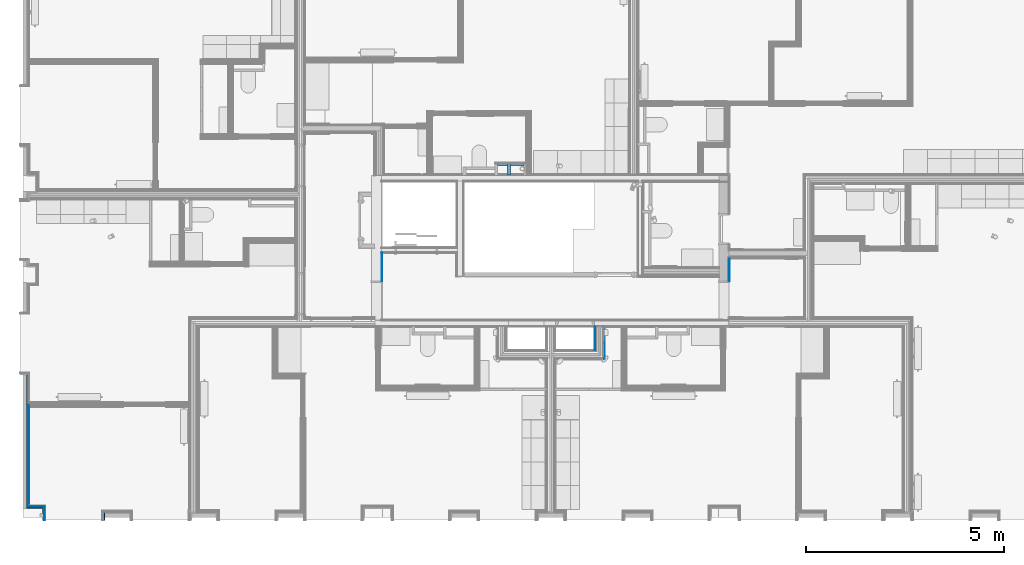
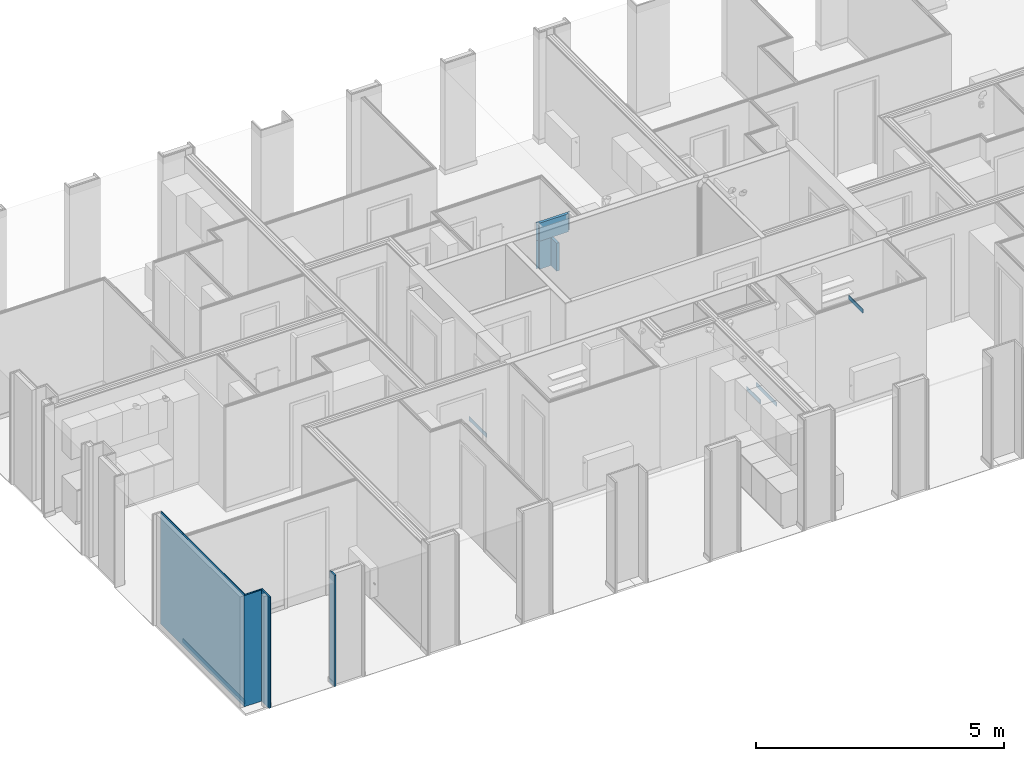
# One storey, part 8 of 82: 9 walls, 8 building element parts, 4 openings, 4 elements without a shape of their own.
"""IFC2X3 building model written with IfcOpenShell, lengths in metres."""

import ifcopenshell
import ifcopenshell.guid

model = None  # the IFC model being written
_history = None  # IfcOwnerHistory: only IFC2X3 demands one
_inside = {}  # id of a spatial element -> (the spatial element, [elements in it])
_under = {}  # id of a project, library or spatial element -> (it, [spatial elements below it])
_declared = {}  # id of a project -> (the project, [libraries it declares])
_typed = {}  # id of a type object -> (the type object, [elements of that type])
_made_of = {}  # id of a material, layer set ... -> (it, [elements and type objects made of it])


def new_model(schema):
    """Start an empty IFC model of exactly this schema.

    Asked for "IFC4X3", IfcOpenShell would pick the latest addendum, in which some entities
    have other attributes; the version numbers below select the first issue.
    IFC2X3 requires an IfcOwnerHistory on every rooted entity: one is made here for all.
    """
    global model, _history
    if schema == "IFC4X3":
        model = ifcopenshell.file(schema_version=(4, 3, 0, 0))
    else:
        model = ifcopenshell.file(schema=schema)
    _inside.clear()
    _under.clear()
    _declared.clear()
    _typed.clear()
    _made_of.clear()
    _history = None
    if model.schema == "IFC2X3":
        org = make("IfcOrganization", Name="unknown")
        user = make(
            "IfcPersonAndOrganization",
            ThePerson=make("IfcPerson", FamilyName="unknown"),
            TheOrganization=org,
        )
        app = make(
            "IfcApplication",
            ApplicationDeveloper=org,
            Version="unknown",
            ApplicationFullName="unknown",
            ApplicationIdentifier="unknown",
        )
        _history = make(
            "IfcOwnerHistory",
            OwningUser=user,
            OwningApplication=app,
            ChangeAction="ADDED",
            CreationDate=0,
        )
    return model


def make(cls, **values):
    """One entity of the class cls with the attributes given. An attribute that is None is left unset."""
    return model.create_entity(
        cls, **{name: value for name, value in values.items() if value is not None}
    )


def entity(cls, *values):
    """Any entity or typed value of the class cls, its attributes in the order of the schema. None: left unset."""
    e = model.create_entity(cls)
    for i, value in enumerate(values):
        if value is not None:
            e[i] = value
    return e


def rooted(cls, **values):
    """An entity with a GlobalId (a new one), such as an element, a storey or a relation."""
    return make(cls, GlobalId=ifcopenshell.guid.new(), OwnerHistory=_history, **values)


def si_unit(unit_type, name, prefix=None):
    """IfcSIUnit, for example si_unit("LENGTHUNIT", "METRE", prefix="MILLI")."""
    return make("IfcSIUnit", UnitType=unit_type, Prefix=prefix, Name=name)


def converted_unit(unit_type, name, factor, base, dimensions=None, offset=None):
    """IfcConversionBasedUnit, such as the inch: factor (a typed value) times the base unit."""
    return make(
        "IfcConversionBasedUnit"
        if offset is None
        else "IfcConversionBasedUnitWithOffset",
        ConversionOffset=offset,
        Dimensions=None
        if dimensions is None
        else entity("IfcDimensionalExponents", *dimensions),
        UnitType=unit_type,
        Name=name,
        ConversionFactor=make(
            "IfcMeasureWithUnit", ValueComponent=factor, UnitComponent=base
        ),
    )


def derived_unit(unit_type, elements):
    """IfcDerivedUnit: a product of units, each with its exponent."""
    return make(
        "IfcDerivedUnit",
        Elements=[
            make("IfcDerivedUnitElement", Unit=unit, Exponent=power)
            for unit, power in elements
        ],
        UnitType=unit_type,
    )


def money_unit(currency):
    """IfcMonetaryUnit."""
    return make("IfcMonetaryUnit", Currency=currency)


def assignment(units):
    """IfcUnitAssignment: the units of a project."""
    return None if units is None else make("IfcUnitAssignment", Units=units)


def point(xyz):
    """IfcCartesianPoint."""
    return None if xyz is None else make("IfcCartesianPoint", Coordinates=xyz)


def direction(xyz):
    """IfcDirection."""
    return None if xyz is None else make("IfcDirection", DirectionRatios=xyz)


def frame(location, z_axis=None, x_axis=None):
    """IfcAxis2Placement3D, a coordinate frame: its origin and axes. An axis left out is left unset."""
    return make(
        "IfcAxis2Placement3D",
        Location=point(location),
        Axis=direction(z_axis),
        RefDirection=direction(x_axis),
    )


def frame_2d(location, x_axis=None):
    """IfcAxis2Placement2D, a coordinate frame in the plane: its origin and x axis."""
    return make(
        "IfcAxis2Placement2D", Location=point(location), RefDirection=direction(x_axis)
    )


def origin_with_axes():
    """The frame at (0, 0, 0) with the z axis (0, 0, 1) and the x axis (1, 0, 0) written out."""
    return frame((0.0, 0.0, 0.0), z_axis=(0.0, 0.0, 1.0), x_axis=(1.0, 0.0, 0.0))


def place(relative_to, where):
    """IfcLocalPlacement: puts the frame where relative to a parent placement (None: the world)."""
    return make(
        "IfcLocalPlacement", PlacementRelTo=relative_to, RelativePlacement=where
    )


def context(
    kind, dimensions, precision=None, world=None, true_north=None, identifier=None
):
    """IfcGeometricRepresentationContext, for example the 3D "Model" context."""
    return make(
        "IfcGeometricRepresentationContext",
        ContextIdentifier=identifier,
        ContextType=kind,
        CoordinateSpaceDimension=dimensions,
        Precision=precision,
        WorldCoordinateSystem=world,
        TrueNorth=true_north,
    )


def subcontext(parent, identifier, kind, view, scale=None):
    """IfcGeometricRepresentationSubContext, for example "Body" below "Model"."""
    return make(
        "IfcGeometricRepresentationSubContext",
        ContextIdentifier=identifier,
        ContextType=kind,
        ParentContext=parent,
        TargetScale=scale,
        TargetView=view,
    )


def project(units=None, contexts=None):
    """IfcProject with its units and contexts."""
    return rooted(
        "IfcProject",
        Name="project",
        RepresentationContexts=contexts,
        UnitsInContext=assignment(units),
    )


def spatial(cls, under=None, at=None, **own):
    """A site, building, storey or space (cls), placed at a placement, below another one or the project."""
    s = rooted(cls, ObjectPlacement=at, **own)
    if under is not None:
        _under.setdefault(under.id(), (under, []))[1].append(s)
    return s


def polyline(points):
    """IfcPolyline through the points."""
    return make("IfcPolyline", Points=[point(p) for p in points])


def profile(cls, at=None, kind="AREA", **sizes):
    """A parametric profile (cls). Its sizes go by their IFC names, for example OverallWidth=200.0."""
    return make(cls, ProfileType=kind, Position=at, **sizes)


def rectangle(**sizes):
    """IfcRectangleProfileDef."""
    return profile("IfcRectangleProfileDef", **sizes)


def outline(outer, holes=None, kind="AREA"):
    """IfcArbitraryClosedProfileDef: a profile drawn as a closed curve; with holes, ...WithVoids."""
    if holes is None:
        return make("IfcArbitraryClosedProfileDef", ProfileType=kind, OuterCurve=outer)
    return make(
        "IfcArbitraryProfileDefWithVoids",
        ProfileType=kind,
        OuterCurve=outer,
        InnerCurves=holes,
    )


def extrude(swept, where, along, depth):
    """IfcExtrudedAreaSolid: the profile swept, set in the frame where, extruded along a direction by depth."""
    return make(
        "IfcExtrudedAreaSolid",
        SweptArea=swept,
        Position=where,
        ExtrudedDirection=direction(along),
        Depth=depth,
    )


def shape(context_of_items, identifier, shape_type, items):
    """IfcShapeRepresentation: the items that make up one representation, for example the "Body"."""
    return make(
        "IfcShapeRepresentation",
        ContextOfItems=context_of_items,
        RepresentationIdentifier=identifier,
        RepresentationType=shape_type,
        Items=items,
    )


def material(Name=None, Category=None):
    """IfcMaterial."""
    return make("IfcMaterial", Name=Name, Category=Category)


def layer(
    of_material, thickness, ventilated=None, Name=None, Category=None, Priority=None
):
    """IfcMaterialLayer: one layer of a wall or slab, of a material (None: an air gap)."""
    return make(
        "IfcMaterialLayer",
        Material=of_material,
        LayerThickness=thickness,
        IsVentilated=ventilated,
        Name=Name,
        Category=Category,
        Priority=Priority,
    )


def layer_set(layers, Name=None):
    """IfcMaterialLayerSet."""
    return make("IfcMaterialLayerSet", MaterialLayers=layers, LayerSetName=Name)


def layer_usage(for_layer_set, set_direction, sense, offset, extent=None):
    """IfcMaterialLayerSetUsage: how a layer set lies in its element."""
    return make(
        "IfcMaterialLayerSetUsage",
        ForLayerSet=for_layer_set,
        LayerSetDirection=set_direction,
        DirectionSense=sense,
        OffsetFromReferenceLine=offset,
        ReferenceExtent=extent,
    )


def made_of(thing, what):
    """Note that an element or type object is made of a material, layer set ...; save() writes the relation."""
    if what is not None:
        _made_of.setdefault(what.id(), (what, []))[1].append(thing)
    return thing


def type_object(cls, material=None, **own):
    """A type object (cls), such as IfcWallType, which elements share."""
    return made_of(rooted(cls, **own), material)


def element(
    cls,
    number,
    at=None,
    inside=None,
    cuts=None,
    type_object=None,
    material=None,
    context=None,
    identifier="Body",
    shape_type=None,
    held_by="IfcProductDefinitionShape",
    body=None,
    shapes=None,
    **own,
):
    """One element of the class cls, such as IfcWall. Its Tag is "e" and its number.

    at: its placement. inside: the storey or other place that contains it. cuts: it is an
    opening in that element (IfcRelVoidsElement). A single representation is given by context,
    identifier, shape_type and body (its items); several are given by shapes. held_by: the class
    of the entity that holds the representations. save() writes the other relations.
    """
    e = rooted(cls, Tag="e%d" % number, ObjectPlacement=at, **own)
    if body is not None:
        shapes = [shape(context, identifier, shape_type, body)]
    if shapes is not None:
        e.Representation = make(held_by, Representations=shapes)
    if inside is not None:
        _inside.setdefault(inside.id(), (inside, []))[1].append(e)
    if cuts is not None:
        rooted(
            "IfcRelVoidsElement", RelatingBuildingElement=cuts, RelatedOpeningElement=e
        )
    if type_object is not None:
        _typed.setdefault(type_object.id(), (type_object, []))[1].append(e)
    return made_of(e, material)


def aggregate(whole, parts):
    """IfcRelAggregates: a whole, such as a stair, and the parts it consists of."""
    return rooted("IfcRelAggregates", RelatingObject=whole, RelatedObjects=parts)


def save(model, path):
    """Write the relations noted so far, then the file.

    IfcRelAggregates (storeys below a building ...), IfcRelContainedInSpatialStructure (elements
    in a storey), IfcRelDefinesByType, IfcRelAssociatesMaterial and IfcRelDeclares: one each for
    every whole, place, type object, material and project.
    """
    for whole, parts in _under.values():
        aggregate(whole, parts)
    for where, things in _inside.values():
        rooted(
            "IfcRelContainedInSpatialStructure",
            RelatedElements=things,
            RelatingStructure=where,
        )
    for kind, things in _typed.values():
        rooted("IfcRelDefinesByType", RelatedObjects=things, RelatingType=kind)
    for what, things in _made_of.values():
        rooted("IfcRelAssociatesMaterial", RelatedObjects=things, RelatingMaterial=what)
    for by, libraries in _declared.values():
        rooted("IfcRelDeclares", RelatingContext=by, RelatedDefinitions=libraries)
    model.write(path)


model = new_model("IFC2X3")

# Units and contexts
model_context = context("Model", 3, precision=1e-05, world=origin_with_axes(), true_north=direction((0.0, 1.0)))
body_context = subcontext(model_context, "Body", "Model", "MODEL_VIEW", scale=1.0)
ifc_project = project(units=[si_unit("LENGTHUNIT", "METRE"), si_unit("AREAUNIT", "SQUARE_METRE"), si_unit("VOLUMEUNIT", "CUBIC_METRE"), si_unit("ABSORBEDDOSEUNIT", "GRAY"), si_unit("AMOUNTOFSUBSTANCEUNIT", "MOLE"), si_unit("DOSEEQUIVALENTUNIT", "SIEVERT"), si_unit("ELECTRICCAPACITANCEUNIT", "FARAD"), si_unit("ELECTRICCHARGEUNIT", "COULOMB"), si_unit("ELECTRICCONDUCTANCEUNIT", "SIEMENS"), si_unit("ELECTRICCURRENTUNIT", "AMPERE"), si_unit("ELECTRICRESISTANCEUNIT", "OHM"), si_unit("ELECTRICVOLTAGEUNIT", "VOLT"), si_unit("ENERGYUNIT", "JOULE"), si_unit("FORCEUNIT", "NEWTON"), si_unit("FREQUENCYUNIT", "HERTZ"), si_unit("ILLUMINANCEUNIT", "LUX"), si_unit("INDUCTANCEUNIT", "HENRY"), si_unit("LUMINOUSFLUXUNIT", "LUMEN"), si_unit("LUMINOUSINTENSITYUNIT", "CANDELA"), si_unit("MAGNETICFLUXDENSITYUNIT", "TESLA"), si_unit("MAGNETICFLUXUNIT", "WEBER"), si_unit("MASSUNIT", "GRAM"), converted_unit("PLANEANGLEUNIT", "degree", entity("IfcReal", 0.0174532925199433), si_unit("PLANEANGLEUNIT", "RADIAN"), dimensions=[0, 0, 0, 0, 0, 0, 0]), si_unit("POWERUNIT", "WATT"), si_unit("PRESSUREUNIT", "PASCAL"), si_unit("RADIOACTIVITYUNIT", "BECQUEREL"), si_unit("SOLIDANGLEUNIT", "STERADIAN"), si_unit("THERMODYNAMICTEMPERATUREUNIT", "KELVIN"), si_unit("TIMEUNIT", "SECOND"), derived_unit("ACCELERATIONUNIT", [(si_unit("LENGTHUNIT", "METRE"), 1), (si_unit("TIMEUNIT", "SECOND"), -2)]), derived_unit("ANGULARVELOCITYUNIT", [(converted_unit("PLANEANGLEUNIT", "degree", entity("IfcReal", 0.0174532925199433), si_unit("PLANEANGLEUNIT", "RADIAN"), dimensions=[0, 0, 0, 0, 0, 0, 0]), 1), (si_unit("TIMEUNIT", "SECOND"), -1)]), derived_unit("CURVATUREUNIT", [(converted_unit("PLANEANGLEUNIT", "degree", entity("IfcReal", 0.0174532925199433), si_unit("PLANEANGLEUNIT", "RADIAN"), dimensions=[0, 0, 0, 0, 0, 0, 0]), 1), (si_unit("LENGTHUNIT", "METRE"), -1)]), derived_unit("DYNAMICVISCOSITYUNIT", [(si_unit("PRESSUREUNIT", "PASCAL"), 1), (si_unit("TIMEUNIT", "SECOND"), 1)]), derived_unit("HEATFLUXDENSITYUNIT", [(si_unit("POWERUNIT", "WATT"), 1), (si_unit("LENGTHUNIT", "METRE"), -2)]), derived_unit("HEATINGVALUEUNIT", [(si_unit("ENERGYUNIT", "JOULE"), 1), (si_unit("MASSUNIT", "GRAM"), -1)]), derived_unit("INTEGERCOUNTRATEUNIT", [(si_unit("TIMEUNIT", "SECOND"), -1)]), derived_unit("IONCONCENTRATIONUNIT", [(si_unit("MASSUNIT", "GRAM"), 1), (si_unit("VOLUMEUNIT", "CUBIC_METRE"), -1)]), derived_unit("ISOTHERMALMOISTURECAPACITYUNIT", [(si_unit("VOLUMEUNIT", "CUBIC_METRE"), 1), (si_unit("MASSUNIT", "GRAM"), -1)]), derived_unit("KINEMATICVISCOSITYUNIT", [(si_unit("AREAUNIT", "SQUARE_METRE"), 1), (si_unit("TIMEUNIT", "SECOND"), -1)]), derived_unit("LINEARFORCEUNIT", [(si_unit("FORCEUNIT", "NEWTON"), 1), (si_unit("LENGTHUNIT", "METRE"), -1)]), derived_unit("LINEARMOMENTUNIT", [(si_unit("FORCEUNIT", "NEWTON"), 1), (si_unit("LENGTHUNIT", "METRE"), -1)]), derived_unit("LINEARSTIFFNESSUNIT", [(si_unit("FORCEUNIT", "NEWTON"), 1), (si_unit("LENGTHUNIT", "METRE"), -1)]), derived_unit("LINEARVELOCITYUNIT", [(si_unit("LENGTHUNIT", "METRE"), 1), (si_unit("TIMEUNIT", "SECOND"), -1)]), derived_unit("LUMINOUSINTENSITYDISTRIBUTIONUNIT", [(si_unit("LUMINOUSINTENSITYUNIT", "CANDELA"), 1), (si_unit("LUMINOUSFLUXUNIT", "LUMEN"), -1)]), derived_unit("MASSDENSITYUNIT", [(si_unit("MASSUNIT", "GRAM"), 1), (si_unit("VOLUMEUNIT", "CUBIC_METRE"), -1)]), derived_unit("MASSFLOWRATEUNIT", [(si_unit("MASSUNIT", "GRAM"), 1), (si_unit("TIMEUNIT", "SECOND"), -1)]), derived_unit("MASSPERLENGTHUNIT", [(si_unit("MASSUNIT", "GRAM"), 1), (si_unit("LENGTHUNIT", "METRE"), -1)]), derived_unit("MODULUSOFELASTICITYUNIT", [(si_unit("FORCEUNIT", "NEWTON"), 1), (si_unit("AREAUNIT", "SQUARE_METRE"), -1)]), derived_unit("MODULUSOFLINEARSUBGRADEREACTIONUNIT", [(si_unit("FORCEUNIT", "NEWTON"), 1), (si_unit("LENGTHUNIT", "METRE"), -2)]), derived_unit("MODULUSOFROTATIONALSUBGRADEREACTIONUNIT", [(si_unit("FORCEUNIT", "NEWTON"), 1), (si_unit("LENGTHUNIT", "METRE"), 1)]), derived_unit("MODULUSOFSUBGRADEREACTIONUNIT", [(si_unit("FORCEUNIT", "NEWTON"), 1), (si_unit("VOLUMEUNIT", "CUBIC_METRE"), -1)]), derived_unit("MOISTUREDIFFUSIVITYUNIT", [(si_unit("VOLUMEUNIT", "CUBIC_METRE"), 1), (si_unit("TIMEUNIT", "SECOND"), -1)]), derived_unit("MOLECULARWEIGHTUNIT", [(si_unit("MASSUNIT", "GRAM"), 1), (si_unit("AMOUNTOFSUBSTANCEUNIT", "MOLE"), -1)]), derived_unit("PLANARFORCEUNIT", [(si_unit("FORCEUNIT", "NEWTON"), 1), (si_unit("LENGTHUNIT", "METRE"), -2)]), derived_unit("ROTATIONALFREQUENCYUNIT", [(si_unit("TIMEUNIT", "SECOND"), -1)]), derived_unit("ROTATIONALMASSUNIT", [(si_unit("MASSUNIT", "GRAM"), 1), (si_unit("LENGTHUNIT", "METRE"), 2)]), derived_unit("ROTATIONALSTIFFNESSUNIT", [(si_unit("FORCEUNIT", "NEWTON"), 1), (si_unit("LENGTHUNIT", "METRE"), 1), (converted_unit("PLANEANGLEUNIT", "degree", entity("IfcReal", 0.0174532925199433), si_unit("PLANEANGLEUNIT", "RADIAN"), dimensions=[0, 0, 0, 0, 0, 0, 0]), -1)]), derived_unit("SECTIONAREAINTEGRALUNIT", [(si_unit("LENGTHUNIT", "METRE"), 5)]), derived_unit("SECTIONMODULUSUNIT", [(si_unit("LENGTHUNIT", "METRE"), 3)]), derived_unit("SHEARMODULUSUNIT", [(si_unit("FORCEUNIT", "NEWTON"), 1), (si_unit("AREAUNIT", "SQUARE_METRE"), -1)]), derived_unit("SOUNDPOWERUNIT", [(si_unit("ENERGYUNIT", "JOULE"), 1), (si_unit("TIMEUNIT", "SECOND"), -1)]), derived_unit("SPECIFICHEATCAPACITYUNIT", [(si_unit("FORCEUNIT", "NEWTON"), 1), (si_unit("MASSUNIT", "GRAM"), -1), (si_unit("THERMODYNAMICTEMPERATUREUNIT", "KELVIN"), -1)]), derived_unit("TEMPERATUREGRADIENTUNIT", [(si_unit("THERMODYNAMICTEMPERATUREUNIT", "KELVIN"), 1), (si_unit("LENGTHUNIT", "METRE"), -1)]), derived_unit("THERMALADMITTANCEUNIT", [(si_unit("POWERUNIT", "WATT"), 1), (si_unit("AREAUNIT", "SQUARE_METRE"), -1), (si_unit("THERMODYNAMICTEMPERATUREUNIT", "KELVIN"), -1)]), derived_unit("THERMALCONDUCTANCEUNIT", [(si_unit("POWERUNIT", "WATT"), 1), (si_unit("LENGTHUNIT", "METRE"), -1), (si_unit("THERMODYNAMICTEMPERATUREUNIT", "KELVIN"), -1)]), derived_unit("THERMALEXPANSIONCOEFFICIENTUNIT", [(si_unit("THERMODYNAMICTEMPERATUREUNIT", "KELVIN"), -1)]), derived_unit("THERMALRESISTANCEUNIT", [(si_unit("AREAUNIT", "SQUARE_METRE"), 1), (si_unit("POWERUNIT", "WATT"), -1)]), derived_unit("THERMALTRANSMITTANCEUNIT", [(si_unit("POWERUNIT", "WATT"), 1), (si_unit("AREAUNIT", "SQUARE_METRE"), -1), (si_unit("THERMODYNAMICTEMPERATUREUNIT", "KELVIN"), -1)]), derived_unit("TORQUEUNIT", [(si_unit("FORCEUNIT", "NEWTON"), 1), (si_unit("LENGTHUNIT", "METRE"), 1)]), derived_unit("VAPORPERMEABILITYUNIT", [(si_unit("MASSUNIT", "GRAM"), 1), (si_unit("TIMEUNIT", "SECOND"), -1)]), derived_unit("VOLUMETRICFLOWRATEUNIT", [(si_unit("VOLUMEUNIT", "CUBIC_METRE"), 1), (si_unit("TIMEUNIT", "SECOND"), -1)]), derived_unit("WARPINGCONSTANTUNIT", [(si_unit("LENGTHUNIT", "METRE"), 6)]), derived_unit("WARPINGMOMENTUNIT", [(si_unit("FORCEUNIT", "NEWTON"), 1), (si_unit("LENGTHUNIT", "METRE"), 2)]), money_unit("GBP")], contexts=[model_context])

# Site, building, storey
site_placement = place(None, origin_with_axes())
site = spatial("IfcSite", under=ifc_project, at=site_placement, Name="Site", CompositionType="ELEMENT")
building_placement = place(site_placement, origin_with_axes())
building = spatial("IfcBuilding", under=site, at=building_placement, Name="Building01", CompositionType="ELEMENT")
storey_placement = place(building_placement, frame((0.0, 0.0, 12.13), z_axis=(0.0, 0.0, 1.0), x_axis=(1.0, 0.0, 0.0)))
storey = spatial("IfcBuildingStorey", under=building, at=storey_placement, Name="3F", CompositionType="ELEMENT", Elevation=12.13)

# Walls
ifc_material_1 = material(Name="A_BSUK_OpeningsClearance")
ifc_layer_1 = layer(ifc_material_1, 0.05, ventilated=False)
ifc_material_2 = material(Name="A_BSUK_Walls_Timber")
ifc_layer_2 = layer(ifc_material_2, 0.015, ventilated=False)
ifc_layer_set_1 = layer_set([ifc_layer_1, ifc_layer_2])
ifc_layer_usage_1 = layer_usage(ifc_layer_set_1, "AXIS2", "POSITIVE", 0.0)
wall_type_1 = type_object("IfcWallType", Name="SHE_A-Walls_Type05c_PreWallShell_65mm", PredefinedType="NOTDEFINED")
wall_1_placement = place(storey_placement, frame((12.153871, 9.055, 2.065), z_axis=(0.0, 0.0, 1.0), x_axis=(1.0, 0.0, 0.0)))
element("IfcWallStandardCase", 1, at=wall_1_placement, inside=storey, type_object=wall_type_1, material=ifc_layer_usage_1, Name="5C", ObjectType="SHE_A-Walls_Type05c_PreWallShell_65mm", context=body_context, shape_type="SweptSolid", body=[
    extrude(outline(polyline([(0.674714, 0.05), (0.724714, 0.05), (0.724714, 0.065), (-0.05, 0.065), (-0.05, 0.05), (0.0, 0.05), (0.0, 0.0), (0.674714, 0.0), (0.674714, 0.05)])), origin_with_axes(), (0.0, 0.0, 1.0), 0.445),
])
wall_2_placement = place(storey_placement, frame((12.153871, 9.055, 1.375), z_axis=(0.0, 0.0, 1.0), x_axis=(1.0, 0.0, 0.0)))
element("IfcWallStandardCase", 2, at=wall_2_placement, inside=storey, type_object=wall_type_1, material=ifc_layer_usage_1, Name="5C", ObjectType="SHE_A-Walls_Type05c_PreWallShell_65mm", context=body_context, shape_type="SweptSolid", body=[
    extrude(outline(polyline([(0.259714, 0.05), (0.309714, 0.05), (0.309714, 0.065), (-0.05, 0.065), (-0.05, 0.05), (0.0, 0.05), (0.0, 0.0), (0.259714, 0.0), (0.259714, 0.05)])), origin_with_axes(), (0.0, 0.0, 1.0), 0.69),
])
wall_3_placement = place(storey_placement, frame((12.413585, 9.105, 1.375), z_axis=(0.0, 0.0, 1.0), x_axis=(0.0, -1.0, 0.0)))
element("IfcWallStandardCase", 3, at=wall_3_placement, inside=storey, type_object=wall_type_1, material=ifc_layer_usage_1, Name="5C", ObjectType="SHE_A-Walls_Type05c_PreWallShell_65mm", context=body_context, shape_type="SweptSolid", body=[
    extrude(outline(polyline([(0.285, 0.065), (-0.015, 0.065), (-0.015, 0.05), (0.0, 0.05), (0.0, 0.0), (0.285, 0.0), (0.285, 0.065)])), origin_with_axes(), (0.0, 0.0, 1.0), 0.69),
])

# Wall, opening
ifc_layer_set_2 = layer_set([ifc_layer_2])
ifc_layer_usage_2 = layer_usage(ifc_layer_set_2, "AXIS2", "POSITIVE", 0.0)
wall_type_2 = type_object("IfcWallType", Name="default", PredefinedType="NOTDEFINED")
wall_4_placement = place(storey_placement, frame((9.23, 6.85, 0.015), z_axis=(0.0, 0.0, 1.0), x_axis=(0.0, -1.0, 0.0)))
wall_4 = element("IfcWallStandardCase", 4, at=wall_4_placement, inside=storey, type_object=wall_type_2, material=ifc_layer_usage_2, Name="default", ObjectType="default", context=body_context, shape_type="SweptSolid", body=[
    extrude(rectangle(XDim=1.685, YDim=0.015, at=frame_2d((0.8425, 0.0075), x_axis=(-1.0, 0.0))), origin_with_axes(), (0.0, 0.0, 1.0), 0.1),
])
opening_1_placement = place(wall_4_placement, frame((0.712281, 0.0, -0.015), z_axis=(0.0, 0.0, 1.0), x_axis=(1.0, 0.0, 0.0)))
element("IfcOpeningElement", 5, at=opening_1_placement, cuts=wall_4, Name="Opening", ObjectType="Opening", context=body_context, shape_type="SweptSolid", body=[
    extrude(rectangle(XDim=0.984, YDim=2.142, at=frame_2d((-0.492, 1.071), x_axis=(1.0, 0.0))), frame((0.0, 0.0, 0.0), z_axis=(0.0, 1.0, 0.0), x_axis=(-1.0, 0.0, 0.0)), (0.0, 0.0, 1.0), 0.015),
])

# Walls
wall_5_placement = place(storey_placement, frame((14.61, 4.965, 0.015), z_axis=(0.0, 0.0, 1.0), x_axis=(0.0, -1.0, 0.0)))
element("IfcWallStandardCase", 6, at=wall_5_placement, inside=storey, type_object=wall_type_2, material=ifc_layer_usage_2, Name="default", ObjectType="default", context=body_context, shape_type="SweptSolid", body=[
    extrude(outline(polyline([(0.575572, 0.015), (-0.015, 0.015), (0.0, 0.0), (0.560572, 0.0), (0.575572, 0.015)])), origin_with_axes(), (0.0, 0.0, 1.0), 0.1),
])
wall_6_placement = place(storey_placement, frame((14.85, 4.98, 0.015), z_axis=(0.0, 0.0, 1.0), x_axis=(0.0, -1.0, 0.0)))
element("IfcWallStandardCase", 7, at=wall_6_placement, inside=storey, type_object=wall_type_2, material=ifc_layer_usage_2, Name="default", ObjectType="default", context=body_context, shape_type="SweptSolid", body=[
    extrude(rectangle(XDim=0.815572, YDim=0.015, at=frame_2d((0.407786, 0.0075), x_axis=(-1.0, 0.0))), origin_with_axes(), (0.0, 0.0, 1.0), 0.1),
])

# Wall, opening
wall_7_placement = place(storey_placement, frame((18.0, 6.69, 0.015), z_axis=(0.0, 0.0, 1.0), x_axis=(0.0, -1.0, 0.0)))
wall_7 = element("IfcWallStandardCase", 8, at=wall_7_placement, inside=storey, type_object=wall_type_2, material=ifc_layer_usage_2, Name="default", ObjectType="default", context=body_context, shape_type="SweptSolid", body=[
    extrude(outline(polyline([(1.47, 0.015), (0.0, 0.015), (0.0, 0.0), (1.485, 0.0), (1.47, 0.015)])), origin_with_axes(), (0.0, 0.0, 1.0), 0.1),
])
opening_2_placement = place(wall_7_placement, frame((0.556, 0.0, -0.015), z_axis=(0.0, 0.0, 1.0), x_axis=(1.0, 0.0, 0.0)))
element("IfcOpeningElement", 9, at=opening_2_placement, cuts=wall_7, Name="Opening", ObjectType="Opening", context=body_context, shape_type="SweptSolid", body=[
    extrude(rectangle(XDim=2.142, YDim=1.007262, at=frame_2d((-0.503631, 1.071), x_axis=(0.0, -1.0))), frame((0.0, 0.0, 0.0), z_axis=(0.0, 1.0, 0.0), x_axis=(-1.0, 0.0, 0.0)), (0.0, 0.0, 1.0), 0.015),
])

placement_1 = place(storey_placement, frame((18.0, 6.705, 0.015), z_axis=(0.0, 0.0, 1.0), x_axis=(0.0, -1.0, 0.0)))
wall_8 = element("IfcWallStandardCase", 10, at=placement_1, inside=storey, type_object=wall_type_2, material=ifc_layer_usage_2, Name="default", ObjectType="default", context=body_context, shape_type="SweptSolid", body=[
    extrude(outline(polyline([(1.485, 0.015), (0.0, 0.015), (0.0, 0.0), (1.5, 0.0), (1.485, 0.015)])), origin_with_axes(), (0.0, 0.0, 1.0), 0.1),
])
placement_2 = place(placement_1, frame((0.571, 0.0, -0.015), z_axis=(0.0, 0.0, 1.0), x_axis=(1.0, 0.0, 0.0)))
element("IfcOpeningElement", 11, at=placement_2, cuts=wall_8, Name="Opening", ObjectType="Opening", context=body_context, shape_type="SweptSolid", body=[
    extrude(rectangle(XDim=1.007262, YDim=2.142, at=frame_2d((-0.503631, 1.071), x_axis=(-1.0, 0.0))), frame((0.0, 0.0, 0.0), z_axis=(0.0, 1.0, 0.0), x_axis=(-1.0, 0.0, 0.0)), (0.0, 0.0, 1.0), 0.015),
])

wall_9 = element("IfcWallStandardCase", 12, at=placement_1, inside=storey, type_object=wall_type_2, material=ifc_layer_usage_2, Name="default", ObjectType="default", context=body_context, shape_type="SweptSolid", body=[
    extrude(outline(polyline([(1.485, 0.015), (0.0, 0.015), (0.0, 0.0), (1.5, 0.0), (1.485, 0.015)])), origin_with_axes(), (0.0, 0.0, 1.0), 0.1),
])
element("IfcOpeningElement", 13, at=placement_2, cuts=wall_9, Name="Opening", ObjectType="Opening", context=body_context, shape_type="SweptSolid", body=[
    extrude(rectangle(XDim=1.007262, YDim=2.142, at=frame_2d((-0.503631, 1.071), x_axis=(-1.0, 0.0))), frame((0.0, 0.0, 0.0), z_axis=(0.0, 1.0, 0.0), x_axis=(-1.0, 0.0, 0.0)), (0.0, 0.0, 1.0), 0.015),
])

# Wall, building element parts
wall_type_3 = type_object("IfcWallType", Name="SHE_A-Walls_Type06d_ExternalWallInsulation_48mm", PredefinedType="NOTDEFINED")
wall_10_placement = place(storey_placement, frame((0.27, 0.4, 0.0), z_axis=(0.0, 0.0, 1.0), x_axis=(1.0, 0.0, 0.0)))
wall_10 = element("IfcWall", 14, at=wall_10_placement, inside=storey, type_object=wall_type_3, Name="6D", ObjectType="SHE_A-Walls_Type06d_ExternalWallInsulation_48mm")
ifc_material_3 = material(Name="A_BSUK_Insulation")
placement_3 = place(wall_10_placement, origin_with_axes())
building_element_part_1 = element("IfcBuildingElementPart", 15, at=placement_3, material=ifc_material_3, Name="1", context=body_context, shape_type="SweptSolid", body=[
    extrude(outline(polyline([(0.443, 0.036), (0.036, 0.036), (0.0, 0.0), (0.407, 0.0), (0.443, 0.036)])), origin_with_axes(), (0.0, 0.0, 1.0), 2.74),
])
ifc_material_4 = material(Name="A_BSUK_WallInternal_Finishes_Plasterboard")
building_element_part_2 = element("IfcBuildingElementPart", 16, at=placement_3, material=ifc_material_4, Name="2", context=body_context, shape_type="SweptSolid", body=[
    extrude(outline(polyline([(0.455, 0.048), (0.048, 0.048), (0.035, 0.035), (0.442, 0.035), (0.455, 0.048)])), origin_with_axes(), (0.0, 0.0, 1.0), 2.74),
])
aggregate(wall_10, [building_element_part_1, building_element_part_2])

wall_11_placement = place(storey_placement, frame((0.677, 0.4, 0.0), z_axis=(0.0, 0.0, 1.0), x_axis=(0.0, -1.0, 0.0)))
wall_11 = element("IfcWall", 17, at=wall_11_placement, inside=storey, type_object=wall_type_3, Name="6D", ObjectType="SHE_A-Walls_Type06d_ExternalWallInsulation_48mm")
placement_4 = place(wall_11_placement, origin_with_axes())
building_element_part_3 = element("IfcBuildingElementPart", 18, at=placement_4, material=ifc_material_3, Name="1", context=body_context, shape_type="SweptSolid", body=[
    extrude(outline(polyline([(-0.036, 0.036), (0.0, 0.0), (0.3, 0.0), (0.3, 0.036), (-0.036, 0.036)])), origin_with_axes(), (0.0, 0.0, 1.0), 2.74),
])
building_element_part_4 = element("IfcBuildingElementPart", 19, at=placement_4, material=ifc_material_4, Name="2", context=body_context, shape_type="SweptSolid", body=[
    extrude(outline(polyline([(-0.048, 0.048), (-0.035, 0.035), (0.3, 0.035), (0.3, 0.048), (-0.048, 0.048)])), origin_with_axes(), (0.0, 0.0, 1.0), 2.74),
])
aggregate(wall_11, [building_element_part_3, building_element_part_4])

# Wall, building element part
wall_12_placement = place(storey_placement, frame((2.243, 0.1, 0.0), z_axis=(0.0, 0.0, 1.0), x_axis=(0.0, 1.0, 0.0)))
wall_12 = element("IfcWall", 20, at=wall_12_placement, inside=storey, type_object=wall_type_3, Name="6D", ObjectType="SHE_A-Walls_Type06d_ExternalWallInsulation_48mm")
building_element_part_5_placement = place(wall_12_placement, origin_with_axes())
building_element_part_5 = element("IfcBuildingElementPart", 21, at=building_element_part_5_placement, material=ifc_material_3, Name="1", context=body_context, shape_type="SweptSolid", body=[
    extrude(outline(polyline([(0.206, 0.036), (0.0, 0.036), (0.0, 0.0), (0.17, 0.0), (0.206, 0.036)])), origin_with_axes(), (0.0, 0.0, 1.0), 2.74),
])
aggregate(wall_12, [building_element_part_5])

# Wall, building element parts
wall_13_placement = place(storey_placement, frame((0.27, 3.77418, 0.0), z_axis=(0.0, 0.0, 1.0), x_axis=(0.0, -1.0, 0.0)))
wall_13 = element("IfcWall", 22, at=wall_13_placement, inside=storey, type_object=wall_type_3, Name="6D", ObjectType="SHE_A-Walls_Type06d_ExternalWallInsulation_48mm")
placement_5 = place(wall_13_placement, origin_with_axes())
building_element_part_6 = element("IfcBuildingElementPart", 23, at=placement_5, material=ifc_material_3, Name="1", context=body_context, shape_type="SweptSolid", body=[
    extrude(outline(polyline([(3.33818, 0.036), (-0.036, 0.036), (0.0, 0.0), (3.37418, 0.0), (3.33818, 0.036)])), origin_with_axes(), (0.0, 0.0, 1.0), 2.74),
])
building_element_part_7 = element("IfcBuildingElementPart", 24, at=placement_5, material=ifc_material_4, Name="2", context=body_context, shape_type="SweptSolid", body=[
    extrude(outline(polyline([(3.32618, 0.048), (-0.048, 0.048), (-0.035, 0.035), (3.33918, 0.035), (3.32618, 0.048)])), origin_with_axes(), (0.0, 0.0, 1.0), 2.74),
])
building_element_part_8 = element("IfcBuildingElementPart", 25, at=placement_5, material=ifc_material_2, Name="4", context=body_context, shape_type="SweptSolid", body=[
    extrude(outline(polyline([(3.31118, 0.063), (0.803894, 0.063), (0.803894, 0.048), (3.32618, 0.048), (3.31118, 0.063)])), frame((0.0, 0.0, 0.015), z_axis=(0.0, 0.0, 1.0), x_axis=(1.0, 0.0, 0.0)), (0.0, 0.0, 1.0), 0.1),
])
aggregate(wall_13, [building_element_part_6, building_element_part_7, building_element_part_8])

save(model, "model.ifc")
